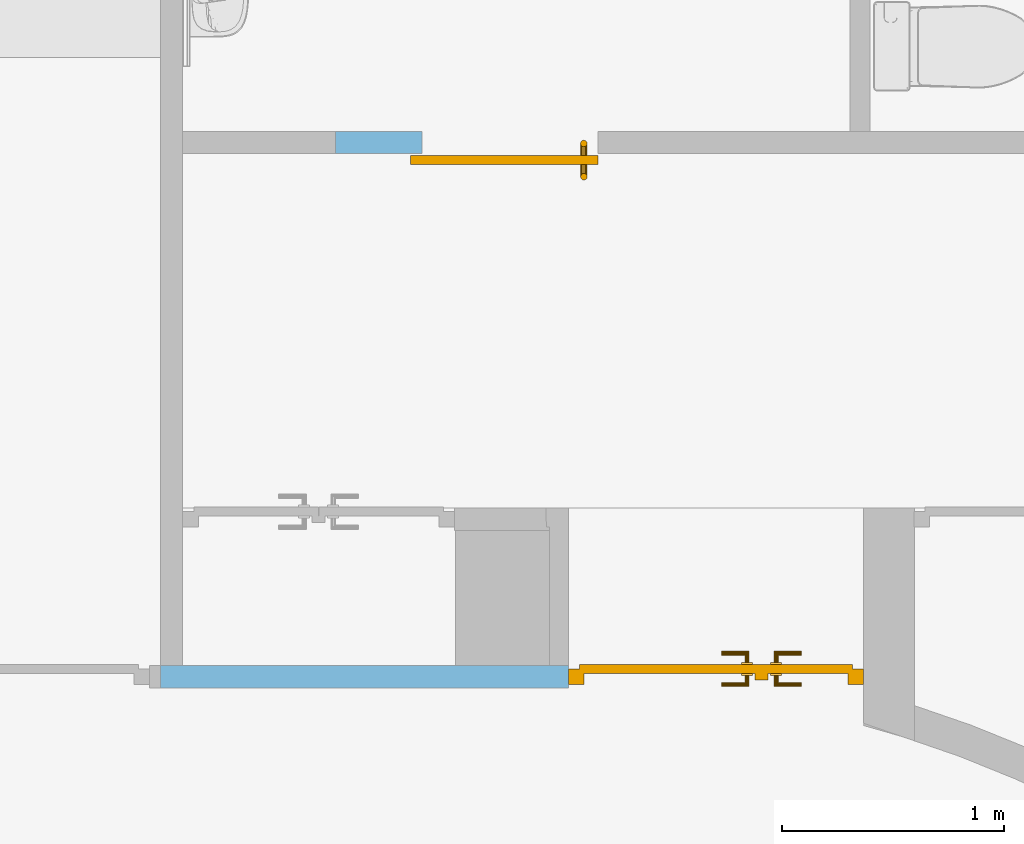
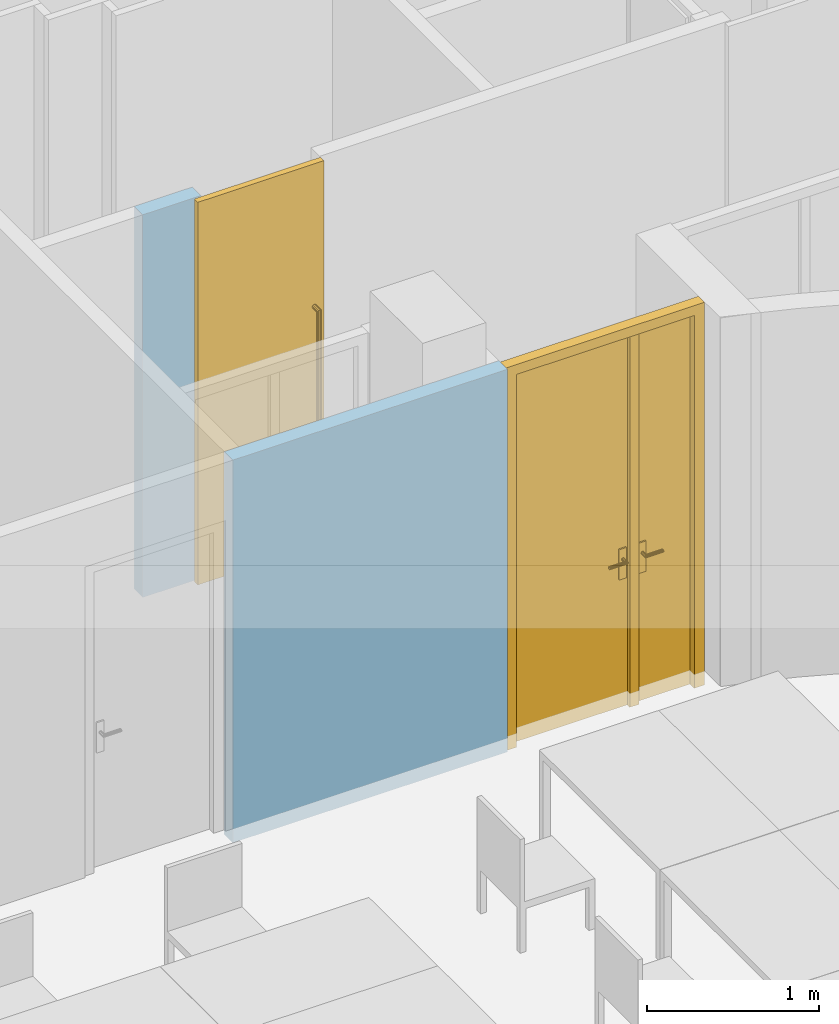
"""IFC4 building model written with IfcOpenShell, lengths in metres."""

from ifc_helpers import new_model, entity, si_unit, converted_unit, derived_unit, frame, frame_2d, origin, origin_with_axes, place, context, subcontext, project, spatial, polyline, rectangle, outline, extrude, faceted_brep, source, transform, mapped, material, layer, layer_set, layer_usage, element, fill, save


model = new_model("IFC4")

# Units and contexts
model_context = context("Model", 3, precision=1e-05, world=origin())
body_context = subcontext(model_context, "Body", "Model", "MODEL_VIEW")
ifc_project = project(units=[si_unit("LENGTHUNIT", "METRE"), si_unit("AREAUNIT", "SQUARE_METRE"), si_unit("VOLUMEUNIT", "CUBIC_METRE"), si_unit("MASSUNIT", "GRAM", prefix="KILO"), converted_unit("PLANEANGLEUNIT", "DEGREE", entity("IfcPlaneAngleMeasure", 0.0174532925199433), si_unit("PLANEANGLEUNIT", "RADIAN"), dimensions=[0, 0, 0, 0, 0, 0, 0]), derived_unit("THERMALTRANSMITTANCEUNIT", [(si_unit("POWERUNIT", "WATT"), 1), (si_unit("THERMODYNAMICTEMPERATUREUNIT", "KELVIN"), -1), (si_unit("LENGTHUNIT", "METRE"), -2)]), derived_unit("VOLUMETRICFLOWRATEUNIT", [(si_unit("LENGTHUNIT", "METRE"), 3), (converted_unit("TIMEUNIT", "hour", entity("IfcTimeMeasure", 3600.0), si_unit("TIMEUNIT", "SECOND"), dimensions=[0, 0, 1, 0, 0, 0, 0]), -1), (si_unit("LENGTHUNIT", "METRE"), -1)])], contexts=[model_context])

# Building, storeys
building_placement = place(None, origin())
building = spatial("IfcBuilding", under=ifc_project, at=building_placement, Name="HABITATGE PLURIFAMILIAR", CompositionType="ELEMENT")
storey_1_placement = place(building_placement, frame((0.0, 0.0, 9.26)))
storey_1 = spatial("IfcBuildingStorey", under=building, at=storey_1_placement, Name="PLANTA SEGONA", CompositionType="ELEMENT", Elevation=9.26)
storey_2_placement = place(storey_1_placement, frame((0.0, 0.0, 6.25)))
storey_2 = spatial("IfcBuildingStorey", under=storey_1, at=storey_2_placement, Name="NOU", CompositionType="PARTIAL")

# Wall, opening, door
ifc_material_1 = material()
ifc_layer_1 = layer(ifc_material_1, 0.1)
ifc_layer_set_1 = layer_set([ifc_layer_1])
ifc_layer_usage_1 = layer_usage(ifc_layer_set_1, "AXIS2", "POSITIVE", 0.0)
wall_1_placement = place(storey_2_placement, frame((404.336984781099, 23.4194598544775, -6.35)))
wall_1 = element("IfcWall", 1, at=wall_1_placement, inside=storey_2, material=ifc_layer_usage_1, Name="Evans P2", context=body_context, shape_type="SweptSolid", body=[
    extrude(rectangle(XDim=3.17, YDim=0.1, at=frame_2d((1.585, 0.05), x_axis=(1.0, 0.0))), origin_with_axes(), (0.0, 0.0, 1.0), 2.71),
])
opening_1_placement = place(wall_1_placement, frame((1.84, 0.0, 0.0), z_axis=(0.0, 1.0, 0.0), x_axis=(0.0, 0.0, 1.0)))
opening_1 = element("IfcOpeningElement", 2, at=opening_1_placement, cuts=wall_1, Name="Vano puerta", ObjectType="Opening", context=body_context, shape_type="SweptSolid", body=[
    extrude(outline(polyline([(2.71, 1.33), (2.71, 0.0), (0.0, 0.0), (0.0, 1.33), (2.71, 1.33)])), origin_with_axes(), (0.0, 0.0, 1.0), 0.1),
])
shared_shape_1 = source(origin_with_axes(), body_context, "Body", "Brep", [
    faceted_brep([(0.0, 0.07, 2.71), (0.0, 0.07, 0.0), (0.07, 0.07, 0.0), (0.07, 0.07, 2.71), (0.0, 0.0, 0.0), (0.0, 0.0, 2.71), (0.07, 0.0, 2.71), (0.07, 0.0, 0.0)], [[[0, 1, 2, 3]], [[4, 5, 6, 7]], [[1, 0, 5, 4]], [[2, 1, 4, 7]], [[3, 2, 7, 6]], [[0, 3, 6, 5]]], orient=[[False], [False], [False], [False], [False], [False]]),
    faceted_brep([(1.26, 0.07, 2.71), (1.26, 0.07, 0.0), (1.33, 0.07, 0.0), (1.33, 0.07, 2.71), (1.26, 0.0, 0.0), (1.26, 0.0, 2.71), (1.33, 0.0, 2.71), (1.33, 0.0, 0.0)], [[[0, 1, 2, 3]], [[4, 5, 6, 7]], [[1, 0, 5, 4]], [[2, 1, 4, 7]], [[3, 2, 7, 6]], [[0, 3, 6, 5]]], orient=[[False], [False], [False], [False], [False], [False]]),
    faceted_brep([(0.07, 0.07, 2.71), (0.07, 0.07, 2.64), (1.26, 0.07, 2.64), (1.26, 0.07, 2.71), (0.07, 0.0, 2.64), (0.07, 0.0, 2.71), (1.26, 0.0, 2.71), (1.26, 0.0, 2.64)], [[[0, 1, 2, 3]], [[4, 5, 6, 7]], [[1, 0, 5, 4]], [[2, 1, 4, 7]], [[3, 2, 7, 6]], [[0, 3, 6, 5]]], orient=[[False], [False], [False], [False], [False], [False]]),
    faceted_brep([(0.05, 0.09, 2.66), (0.05, 0.09, 0.0), (0.87, 0.09, 0.0), (0.87, 0.09, 2.66), (0.05, 0.05, 0.0), (0.05, 0.05, 2.66), (0.87, 0.05, 2.66), (0.87, 0.05, 0.0)], [[[0, 1, 2, 3]], [[4, 5, 6, 7]], [[1, 0, 5, 4]], [[2, 1, 4, 7]], [[3, 2, 7, 6]], [[0, 3, 6, 5]]], orient=[[False], [False], [False], [False], [False], [False]]),
    faceted_brep([(0.84, 0.05, 2.64), (0.84, 0.05, 0.0), (0.9, 0.05, 0.0), (0.9, 0.05, 2.64), (0.84, 0.02, 0.0), (0.84, 0.02, 2.64), (0.9, 0.02, 2.64), (0.9, 0.02, 0.0)], [[[0, 1, 2, 3]], [[4, 5, 6, 7]], [[1, 0, 5, 4]], [[2, 1, 4, 7]], [[3, 2, 7, 6]], [[0, 3, 6, 5]]], orient=[[False], [False], [False], [False], [False], [False]]),
    faceted_brep([(0.78, 0.05, 1.125), (0.78, 0.05, 0.91), (0.83, 0.05, 0.91), (0.83, 0.05, 1.125), (0.78, 0.04, 0.91), (0.78, 0.04, 1.125), (0.83, 0.04, 1.125), (0.83, 0.04, 0.91)], [[[0, 1, 2, 3]], [[4, 5, 6, 7]], [[1, 0, 5, 4]], [[2, 1, 4, 7]], [[3, 2, 7, 6]], [[0, 3, 6, 5]]], orient=[[False], [False], [False], [False], [False], [False]]),
    faceted_brep([(0.805, 0.04, 1.06), (0.8, 0.04, 1.05866025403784), (0.796339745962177, 0.04, 1.055), (0.795, 0.04, 1.05), (0.796339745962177, 0.04, 1.045), (0.8, 0.04, 1.04133974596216), (0.805, 0.04, 1.04), (0.81, 0.04, 1.04133974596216), (0.813660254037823, 0.04, 1.045), (0.815, 0.04, 1.05), (0.813660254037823, 0.04, 1.055), (0.81, 0.04, 1.05866025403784), (0.81, -0.005, 1.05866025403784), (0.805, 0.0, 1.06), (0.813660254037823, -0.00866025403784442, 1.055), (0.815, -0.01, 1.05), (0.813660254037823, -0.00866025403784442, 1.045), (0.81, -0.005, 1.04133974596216), (0.805, 0.0, 1.04), (0.8, 0.005, 1.04133974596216), (0.796339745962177, 0.00866025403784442, 1.045), (0.795, 0.01, 1.05), (0.796339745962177, 0.00866025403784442, 1.055), (0.8, 0.005, 1.05866025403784), (0.69, 0.0, 1.06), (0.69, -0.005, 1.05866025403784), (0.69, -0.00866025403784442, 1.055), (0.69, -0.01, 1.05), (0.69, -0.00866025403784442, 1.045), (0.69, -0.005, 1.04133974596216), (0.69, 0.0, 1.04), (0.69, 0.005, 1.04133974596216), (0.69, 0.00866025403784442, 1.045), (0.69, 0.01, 1.05), (0.69, 0.00866025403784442, 1.055), (0.69, 0.005, 1.05866025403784)], [[[0, 1, 2, 3, 4, 5, 6, 7, 8, 9, 10, 11]], [[0, 11, 12, 13]], [[11, 10, 14, 12]], [[10, 9, 15, 14]], [[9, 8, 16, 15]], [[8, 7, 17, 16]], [[7, 6, 18, 17]], [[6, 5, 19, 18]], [[5, 4, 20, 19]], [[4, 3, 21, 20]], [[3, 2, 22, 21]], [[2, 1, 23, 22]], [[1, 0, 13, 23]], [[24, 25, 26, 27, 28, 29, 30, 31, 32, 33, 34, 35]], [[13, 12, 25, 24]], [[12, 14, 26, 25]], [[14, 15, 27, 26]], [[15, 16, 28, 27]], [[16, 17, 29, 28]], [[17, 18, 30, 29]], [[18, 19, 31, 30]], [[19, 20, 32, 31]], [[20, 21, 33, 32]], [[21, 22, 34, 33]], [[22, 23, 35, 34]], [[23, 13, 24, 35]]], orient=[[False], [False], [False], [False], [False], [False], [False], [False], [False], [False], [False], [False], [False], [False], [False], [False], [False], [False], [False], [False], [False], [False], [False], [False], [False], [False]]),
    faceted_brep([(0.78, 0.09, 1.125), (0.83, 0.09, 1.125), (0.83, 0.09, 0.91), (0.78, 0.09, 0.91), (0.78, 0.1, 0.91), (0.83, 0.1, 0.91), (0.83, 0.1, 1.125), (0.78, 0.1, 1.125)], [[[0, 1, 2, 3]], [[4, 5, 6, 7]], [[3, 4, 7, 0]], [[2, 5, 4, 3]], [[1, 6, 5, 2]], [[0, 7, 6, 1]]], orient=[[False], [False], [False], [False], [False], [False]]),
    faceted_brep([(0.805, 0.1, 1.06), (0.81, 0.1, 1.05866025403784), (0.813660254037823, 0.1, 1.055), (0.815, 0.1, 1.05), (0.813660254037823, 0.1, 1.045), (0.81, 0.1, 1.04133974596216), (0.805, 0.1, 1.04), (0.8, 0.1, 1.04133974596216), (0.796339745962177, 0.1, 1.045), (0.795, 0.1, 1.05), (0.796339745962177, 0.1, 1.055), (0.8, 0.1, 1.05866025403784), (0.805, 0.14, 1.06), (0.81, 0.145, 1.05866025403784), (0.813660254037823, 0.148660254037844, 1.055), (0.815, 0.15, 1.05), (0.813660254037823, 0.148660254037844, 1.045), (0.81, 0.145, 1.04133974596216), (0.805, 0.14, 1.04), (0.8, 0.135, 1.04133974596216), (0.796339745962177, 0.131339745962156, 1.045), (0.795, 0.13, 1.05), (0.796339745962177, 0.131339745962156, 1.055), (0.8, 0.135, 1.05866025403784), (0.69, 0.14, 1.06), (0.69, 0.135, 1.05866025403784), (0.69, 0.131339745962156, 1.055), (0.69, 0.13, 1.05), (0.69, 0.131339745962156, 1.045), (0.69, 0.135, 1.04133974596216), (0.69, 0.14, 1.04), (0.69, 0.145, 1.04133974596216), (0.69, 0.148660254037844, 1.045), (0.69, 0.15, 1.05), (0.69, 0.148660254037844, 1.055), (0.69, 0.145, 1.05866025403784)], [[[0, 1, 2, 3, 4, 5, 6, 7, 8, 9, 10, 11]], [[0, 12, 13, 1]], [[1, 13, 14, 2]], [[2, 14, 15, 3]], [[3, 15, 16, 4]], [[4, 16, 17, 5]], [[5, 17, 18, 6]], [[6, 18, 19, 7]], [[7, 19, 20, 8]], [[8, 20, 21, 9]], [[9, 21, 22, 10]], [[10, 22, 23, 11]], [[11, 23, 12, 0]], [[24, 25, 26, 27, 28, 29, 30, 31, 32, 33, 34, 35]], [[12, 24, 35, 13]], [[13, 35, 34, 14]], [[14, 34, 33, 15]], [[15, 33, 32, 16]], [[16, 32, 31, 17]], [[17, 31, 30, 18]], [[18, 30, 29, 19]], [[19, 29, 28, 20]], [[20, 28, 27, 21]], [[21, 27, 26, 22]], [[22, 26, 25, 23]], [[23, 25, 24, 12]]], orient=[[False], [False], [False], [False], [False], [False], [False], [False], [False], [False], [False], [False], [False], [False], [False], [False], [False], [False], [False], [False], [False], [False], [False], [False], [False], [False]]),
    faceted_brep([(0.871, 0.09, 2.66), (0.871, 0.09, 0.0), (1.28, 0.09, 0.0), (1.28, 0.09, 2.66), (0.871, 0.05, 0.0), (0.871, 0.05, 2.66), (1.28, 0.05, 2.66), (1.28, 0.05, 0.0)], [[[0, 1, 2, 3]], [[4, 5, 6, 7]], [[1, 0, 5, 4]], [[2, 1, 4, 7]], [[3, 2, 7, 6]], [[0, 3, 6, 5]]], orient=[[False], [False], [False], [False], [False], [False]]),
    faceted_brep([(0.911, 0.05, 1.125), (0.911, 0.05, 0.91), (0.961, 0.05, 0.91), (0.961, 0.05, 1.125), (0.911, 0.04, 0.91), (0.911, 0.04, 1.125), (0.961, 0.04, 1.125), (0.961, 0.04, 0.91)], [[[0, 1, 2, 3]], [[4, 5, 6, 7]], [[1, 0, 5, 4]], [[2, 1, 4, 7]], [[3, 2, 7, 6]], [[0, 3, 6, 5]]], orient=[[False], [False], [False], [False], [False], [False]]),
    faceted_brep([(0.936, 0.04, 1.06), (0.931, 0.04, 1.05866025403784), (0.927339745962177, 0.04, 1.055), (0.926, 0.04, 1.05), (0.927339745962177, 0.04, 1.045), (0.931, 0.04, 1.04133974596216), (0.936, 0.04, 1.04), (0.941, 0.04, 1.04133974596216), (0.944660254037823, 0.04, 1.045), (0.946, 0.04, 1.05), (0.944660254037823, 0.04, 1.055), (0.941, 0.04, 1.05866025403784), (0.936, 0.0, 1.06), (0.931, -0.005, 1.05866025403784), (0.927339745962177, -0.00866025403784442, 1.055), (0.926, -0.01, 1.05), (0.927339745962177, -0.00866025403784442, 1.045), (0.931, -0.005, 1.04133974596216), (0.936, 0.0, 1.04), (0.941, 0.005, 1.04133974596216), (0.944660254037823, 0.00866025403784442, 1.045), (0.946, 0.01, 1.05), (0.944660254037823, 0.00866025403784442, 1.055), (0.941, 0.005, 1.05866025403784), (1.051, 0.0, 1.06), (1.051, 0.005, 1.05866025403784), (1.051, 0.00866025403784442, 1.055), (1.051, 0.01, 1.05), (1.051, 0.00866025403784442, 1.045), (1.051, 0.005, 1.04133974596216), (1.051, 0.0, 1.04), (1.051, -0.005, 1.04133974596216), (1.051, -0.00866025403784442, 1.045), (1.051, -0.01, 1.05), (1.051, -0.00866025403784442, 1.055), (1.051, -0.005, 1.05866025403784)], [[[0, 1, 2, 3, 4, 5, 6, 7, 8, 9, 10, 11]], [[0, 12, 13, 1]], [[1, 13, 14, 2]], [[2, 14, 15, 3]], [[3, 15, 16, 4]], [[4, 16, 17, 5]], [[5, 17, 18, 6]], [[6, 18, 19, 7]], [[7, 19, 20, 8]], [[8, 20, 21, 9]], [[9, 21, 22, 10]], [[10, 22, 23, 11]], [[11, 23, 12, 0]], [[24, 25, 26, 27, 28, 29, 30, 31, 32, 33, 34, 35]], [[12, 24, 35, 13]], [[13, 35, 34, 14]], [[14, 34, 33, 15]], [[15, 33, 32, 16]], [[16, 32, 31, 17]], [[17, 31, 30, 18]], [[18, 30, 29, 19]], [[19, 29, 28, 20]], [[20, 28, 27, 21]], [[21, 27, 26, 22]], [[22, 26, 25, 23]], [[23, 25, 24, 12]]], orient=[[False], [False], [False], [False], [False], [False], [False], [False], [False], [False], [False], [False], [False], [False], [False], [False], [False], [False], [False], [False], [False], [False], [False], [False], [False], [False]]),
    faceted_brep([(0.911, 0.09, 1.125), (0.961, 0.09, 1.125), (0.961, 0.09, 0.91), (0.911, 0.09, 0.91), (0.911, 0.1, 0.91), (0.961, 0.1, 0.91), (0.961, 0.1, 1.125), (0.911, 0.1, 1.125)], [[[0, 1, 2, 3]], [[4, 5, 6, 7]], [[3, 4, 7, 0]], [[2, 5, 4, 3]], [[1, 6, 5, 2]], [[0, 7, 6, 1]]], orient=[[False], [False], [False], [False], [False], [False]]),
    faceted_brep([(0.936, 0.1, 1.06), (0.941, 0.1, 1.05866025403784), (0.944660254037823, 0.1, 1.055), (0.946, 0.1, 1.05), (0.944660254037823, 0.1, 1.045), (0.941, 0.1, 1.04133974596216), (0.936, 0.1, 1.04), (0.931, 0.1, 1.04133974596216), (0.927339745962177, 0.1, 1.045), (0.926, 0.1, 1.05), (0.927339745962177, 0.1, 1.055), (0.931, 0.1, 1.05866025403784), (0.931, 0.145, 1.05866025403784), (0.936, 0.14, 1.06), (0.927339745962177, 0.148660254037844, 1.055), (0.926, 0.15, 1.05), (0.927339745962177, 0.148660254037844, 1.045), (0.931, 0.145, 1.04133974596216), (0.936, 0.14, 1.04), (0.941, 0.135, 1.04133974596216), (0.944660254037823, 0.131339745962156, 1.045), (0.946, 0.13, 1.05), (0.944660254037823, 0.131339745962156, 1.055), (0.941, 0.135, 1.05866025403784), (1.051, 0.14, 1.06), (1.051, 0.145, 1.05866025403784), (1.051, 0.148660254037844, 1.055), (1.051, 0.15, 1.05), (1.051, 0.148660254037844, 1.045), (1.051, 0.145, 1.04133974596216), (1.051, 0.14, 1.04), (1.051, 0.135, 1.04133974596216), (1.051, 0.131339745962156, 1.045), (1.051, 0.13, 1.05), (1.051, 0.131339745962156, 1.055), (1.051, 0.135, 1.05866025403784)], [[[0, 1, 2, 3, 4, 5, 6, 7, 8, 9, 10, 11]], [[0, 11, 12, 13]], [[11, 10, 14, 12]], [[10, 9, 15, 14]], [[9, 8, 16, 15]], [[8, 7, 17, 16]], [[7, 6, 18, 17]], [[6, 5, 19, 18]], [[5, 4, 20, 19]], [[4, 3, 21, 20]], [[3, 2, 22, 21]], [[2, 1, 23, 22]], [[1, 0, 13, 23]], [[24, 25, 26, 27, 28, 29, 30, 31, 32, 33, 34, 35]], [[13, 12, 25, 24]], [[12, 14, 26, 25]], [[14, 15, 27, 26]], [[15, 16, 28, 27]], [[16, 17, 29, 28]], [[17, 18, 30, 29]], [[18, 19, 31, 30]], [[19, 20, 32, 31]], [[20, 21, 33, 32]], [[21, 22, 34, 33]], [[22, 23, 35, 34]], [[23, 13, 24, 35]]], orient=[[False], [False], [False], [False], [False], [False], [False], [False], [False], [False], [False], [False], [False], [False], [False], [False], [False], [False], [False], [False], [False], [False], [False], [False], [False], [False]]),
])
door_1_placement = place(opening_1_placement, frame((0.0, 0.0, 0.015), z_axis=(1.0, 0.0, 0.0), x_axis=(0.0, 1.0, 0.0)))
door_1 = element("IfcDoor", 3, at=door_1_placement, inside=storey_2, Name="Porta P2", OperationType="USERDEFINED", OverallHeight=2.71, OverallWidth=1.33, PredefinedType="DOOR", context=body_context, shape_type="MappedRepresentation", body=[
    mapped(shared_shape_1, transform((0.0, 0.0, 0.0), x_axis=(1.0, 0.0, 0.0), y_axis=(0.0, 1.0, 0.0), z_axis=(0.0, 0.0, 1.0), scale=1.0)),
])
fill(opening_1, door_1)

ifc_material_2 = material()
ifc_layer_2 = layer(ifc_material_2, 0.1)
ifc_layer_set_2 = layer_set([ifc_layer_2])
ifc_layer_usage_2 = layer_usage(ifc_layer_set_2, "AXIS2", "POSITIVE", 0.0)
wall_2_placement = place(storey_2_placement, frame((405.125091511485, 25.8294598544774, -6.35)))
wall_2 = element("IfcWall", 4, at=wall_2_placement, inside=storey_2, material=ifc_layer_usage_2, Name="Evans P2", context=body_context, shape_type="SweptSolid", body=[
    extrude(rectangle(XDim=1.18587612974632, YDim=0.1, at=frame_2d((0.59293806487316, 0.05), x_axis=(1.0, 0.0))), origin_with_axes(), (0.0, 0.0, 1.0), 2.71),
])
opening_2_placement = place(wall_2_placement, frame((1.18587612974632, 0.1, 0.0), z_axis=(0.0, -1.0, 0.0), x_axis=(0.0, 0.0, 1.0)))
opening_2 = element("IfcOpeningElement", 5, at=opening_2_placement, cuts=wall_2, Name="Vano puerta", ObjectType="Opening", context=body_context, shape_type="SweptSolid", body=[
    extrude(outline(polyline([(2.71, 0.795770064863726), (2.71, 0.0), (0.0, 0.0), (0.0, 0.795770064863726), (2.71, 0.795770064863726)])), origin_with_axes(), (0.0, 0.0, 1.0), 0.1),
])
shared_shape_2 = source(origin_with_axes(), body_context, "Body", "Brep", [
    faceted_brep([(0.0, 0.15, 2.71), (0.0, 0.15, 0.0), (0.845770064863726, 0.15, 0.0), (0.845770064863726, 0.15, 2.71), (0.0, 0.11, 0.0), (0.0, 0.11, 2.71), (0.845770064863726, 0.11, 2.71), (0.845770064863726, 0.11, 0.0)], [[[0, 1, 2, 3]], [[4, 5, 6, 7]], [[1, 0, 5, 4]], [[2, 1, 4, 7]], [[3, 2, 7, 6]], [[0, 3, 6, 5]]], orient=[[False], [False], [False], [False], [False], [False]]),
    faceted_brep([(0.08, 0.11, 1.7), (0.0779903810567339, 0.11, 1.7075), (0.0725, 0.11, 1.71299038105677), (0.065, 0.11, 1.715), (0.0575, 0.11, 1.71299038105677), (0.0520096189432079, 0.11, 1.7075), (0.05, 0.11, 1.7), (0.0520096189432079, 0.11, 1.6925), (0.0575, 0.11, 1.68700961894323), (0.065, 0.11, 1.685), (0.0725, 0.11, 1.68700961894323), (0.0779903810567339, 0.11, 1.6925), (0.08, 0.055, 1.7), (0.0779903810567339, 0.0475, 1.7075), (0.0725, 0.0420096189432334, 1.71299038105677), (0.065, 0.04, 1.715), (0.0575, 0.0420096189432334, 1.71299038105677), (0.0520096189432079, 0.0475, 1.7075), (0.05, 0.055, 1.7), (0.0520096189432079, 0.0625, 1.6925), (0.0575, 0.0679903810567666, 1.68700961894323), (0.065, 0.07, 1.685), (0.0725, 0.0679903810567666, 1.68700961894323), (0.0779903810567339, 0.0625, 1.6925), (0.08, 0.055, 0.4), (0.0779903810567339, 0.0475, 0.3925), (0.0725, 0.0420096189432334, 0.387009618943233), (0.065, 0.04, 0.385), (0.0575, 0.0420096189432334, 0.387009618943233), (0.0520096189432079, 0.0475, 0.3925), (0.05, 0.055, 0.4), (0.0520096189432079, 0.0625, 0.4075), (0.0575, 0.0679903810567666, 0.412990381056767), (0.065, 0.07, 0.415), (0.0725, 0.0679903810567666, 0.412990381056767), (0.0779903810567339, 0.0625, 0.4075), (0.08, 0.11, 0.4), (0.0779903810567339, 0.11, 0.4075), (0.0725, 0.11, 0.412990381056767), (0.065, 0.11, 0.415), (0.0575, 0.11, 0.412990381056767), (0.0520096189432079, 0.11, 0.4075), (0.05, 0.11, 0.4), (0.0520096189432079, 0.11, 0.3925), (0.0575, 0.11, 0.387009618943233), (0.065, 0.11, 0.385), (0.0725, 0.11, 0.387009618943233), (0.0779903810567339, 0.11, 0.3925)], [[[0, 1, 2, 3, 4, 5, 6, 7, 8, 9, 10, 11]], [[0, 12, 13, 1]], [[1, 13, 14, 2]], [[2, 14, 15, 3]], [[3, 15, 16, 4]], [[4, 16, 17, 5]], [[5, 17, 18, 6]], [[6, 18, 19, 7]], [[7, 19, 20, 8]], [[8, 20, 21, 9]], [[9, 21, 22, 10]], [[10, 22, 23, 11]], [[11, 23, 12, 0]], [[12, 24, 25, 13]], [[13, 25, 26, 14]], [[14, 26, 27, 15]], [[15, 27, 28, 16]], [[16, 28, 29, 17]], [[17, 29, 30, 18]], [[18, 30, 31, 19]], [[19, 31, 32, 20]], [[20, 32, 33, 21]], [[21, 33, 34, 22]], [[22, 34, 35, 23]], [[23, 35, 24, 12]], [[36, 37, 38, 39, 40, 41, 42, 43, 44, 45, 46, 47]], [[24, 36, 47, 25]], [[25, 47, 46, 26]], [[26, 46, 45, 27]], [[27, 45, 44, 28]], [[28, 44, 43, 29]], [[29, 43, 42, 30]], [[30, 42, 41, 31]], [[31, 41, 40, 32]], [[32, 40, 39, 33]], [[33, 39, 38, 34]], [[34, 38, 37, 35]], [[35, 37, 36, 24]]], orient=[[False], [False], [False], [False], [False], [False], [False], [False], [False], [False], [False], [False], [False], [False], [False], [False], [False], [False], [False], [False], [False], [False], [False], [False], [False], [False], [False], [False], [False], [False], [False], [False], [False], [False], [False], [False], [False], [False]]),
    faceted_brep([(0.08, 0.15, 1.7), (0.0779903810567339, 0.15, 1.6925), (0.0725, 0.15, 1.68700961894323), (0.065, 0.15, 1.685), (0.0575, 0.15, 1.68700961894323), (0.0520096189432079, 0.15, 1.6925), (0.05, 0.15, 1.7), (0.0520096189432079, 0.15, 1.7075), (0.0575, 0.15, 1.71299038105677), (0.065, 0.15, 1.715), (0.0725, 0.15, 1.71299038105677), (0.0779903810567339, 0.15, 1.7075), (0.0779903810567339, 0.2125, 1.7075), (0.08, 0.205, 1.7), (0.0725, 0.217990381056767, 1.71299038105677), (0.065, 0.22, 1.715), (0.0575, 0.217990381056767, 1.71299038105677), (0.0520096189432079, 0.2125, 1.7075), (0.05, 0.205, 1.7), (0.0520096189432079, 0.1975, 1.6925), (0.0575, 0.192009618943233, 1.68700961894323), (0.065, 0.19, 1.685), (0.0725, 0.192009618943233, 1.68700961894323), (0.0779903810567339, 0.1975, 1.6925), (0.0779903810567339, 0.2125, 0.3925), (0.08, 0.205, 0.4), (0.0725, 0.217990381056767, 0.387009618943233), (0.065, 0.22, 0.385), (0.0575, 0.217990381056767, 0.387009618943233), (0.0520096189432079, 0.2125, 0.3925), (0.05, 0.205, 0.4), (0.0520096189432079, 0.1975, 0.4075), (0.0575, 0.192009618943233, 0.412990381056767), (0.065, 0.19, 0.415), (0.0725, 0.192009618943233, 0.412990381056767), (0.0779903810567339, 0.1975, 0.4075), (0.08, 0.15, 0.4), (0.0779903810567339, 0.15, 0.3925), (0.0725, 0.15, 0.387009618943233), (0.065, 0.15, 0.385), (0.0575, 0.15, 0.387009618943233), (0.0520096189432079, 0.15, 0.3925), (0.05, 0.15, 0.4), (0.0520096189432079, 0.15, 0.4075), (0.0575, 0.15, 0.412990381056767), (0.065, 0.15, 0.415), (0.0725, 0.15, 0.412990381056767), (0.0779903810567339, 0.15, 0.4075)], [[[0, 1, 2, 3, 4, 5, 6, 7, 8, 9, 10, 11]], [[0, 11, 12, 13]], [[11, 10, 14, 12]], [[10, 9, 15, 14]], [[9, 8, 16, 15]], [[8, 7, 17, 16]], [[7, 6, 18, 17]], [[6, 5, 19, 18]], [[5, 4, 20, 19]], [[4, 3, 21, 20]], [[3, 2, 22, 21]], [[2, 1, 23, 22]], [[1, 0, 13, 23]], [[13, 12, 24, 25]], [[12, 14, 26, 24]], [[14, 15, 27, 26]], [[15, 16, 28, 27]], [[16, 17, 29, 28]], [[17, 18, 30, 29]], [[18, 19, 31, 30]], [[19, 20, 32, 31]], [[20, 21, 33, 32]], [[21, 22, 34, 33]], [[22, 23, 35, 34]], [[23, 13, 25, 35]], [[36, 37, 38, 39, 40, 41, 42, 43, 44, 45, 46, 47]], [[25, 24, 37, 36]], [[24, 26, 38, 37]], [[26, 27, 39, 38]], [[27, 28, 40, 39]], [[28, 29, 41, 40]], [[29, 30, 42, 41]], [[30, 31, 43, 42]], [[31, 32, 44, 43]], [[32, 33, 45, 44]], [[33, 34, 46, 45]], [[34, 35, 47, 46]], [[35, 25, 36, 47]]], orient=[[False], [False], [False], [False], [False], [False], [False], [False], [False], [False], [False], [False], [False], [False], [False], [False], [False], [False], [False], [False], [False], [False], [False], [False], [False], [False], [False], [False], [False], [False], [False], [False], [False], [False], [False], [False], [False], [False]]),
])
door_2_placement = place(opening_2_placement, frame((0.0, 0.0, 0.0), z_axis=(1.0, 0.0, 0.0), x_axis=(0.0, 1.0, 0.0)))
door_2 = element("IfcDoor", 6, at=door_2_placement, inside=storey_2, Name="Porta P2", OperationType="USERDEFINED", OverallHeight=2.71, OverallWidth=0.79577, PredefinedType="DOOR", context=body_context, shape_type="MappedRepresentation", body=[
    mapped(shared_shape_2, transform((0.0, 0.0, 0.0), x_axis=(1.0, 0.0, 0.0), y_axis=(0.0, 1.0, 0.0), z_axis=(0.0, 0.0, 1.0), scale=1.0)),
])
fill(opening_2, door_2)

save(model, "model.ifc")
